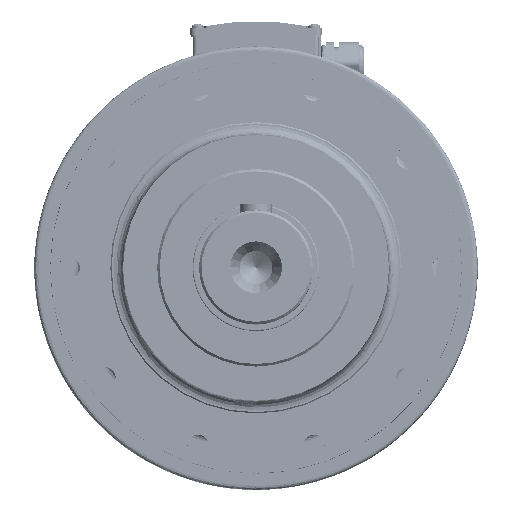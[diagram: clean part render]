
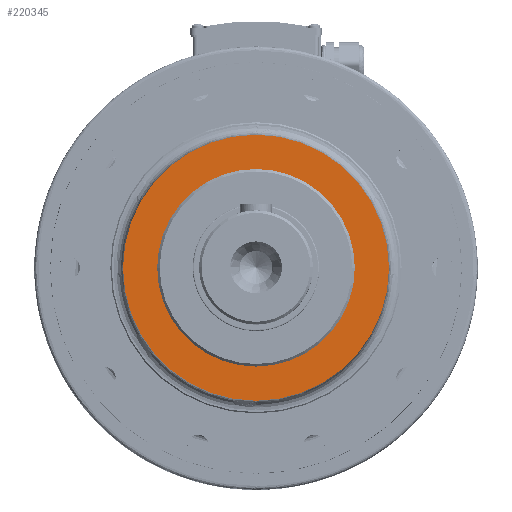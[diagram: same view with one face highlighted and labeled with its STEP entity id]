
A CAD part, top view. The second image highlights one B-rep face of the part: STEP entity #220345.
In plain terms, the highlighted planar face has unit normal (0, 0, 1).
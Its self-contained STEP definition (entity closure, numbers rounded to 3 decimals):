
#8266 = ORIENTED_EDGE ( 'NONE', *, *, #34236, .T. ) ;
#8309 = ORIENTED_EDGE ( 'NONE', *, *, #34641, .F. ) ;
#8321 = ORIENTED_EDGE ( 'NONE', *, *, #34301, .T. ) ;
#8467 = ORIENTED_EDGE ( 'NONE', *, *, #34117, .F. ) ;
#12624 = CIRCLE ( 'NONE', #115828, 105. ) ;
#15694 = DIRECTION ( 'NONE',  ( 0., 0., -1. ) ) ;
#15706 = CARTESIAN_POINT ( 'NONE',  ( 0., 0., 181. ) ) ;
#15727 = DIRECTION ( 'NONE',  ( 0., 1., 0. ) ) ;
#17786 = DIRECTION ( 'NONE',  ( 0., 1., 0. ) ) ;
#17906 = CARTESIAN_POINT ( 'NONE',  ( 0., 0., 181. ) ) ;
#17943 = DIRECTION ( 'NONE',  ( 0., 0., -1. ) ) ;
#18846 = DIRECTION ( 'NONE',  ( 0., 0., -1. ) ) ;
#18866 = DIRECTION ( 'NONE',  ( 0., 1., 0. ) ) ;
#18963 = CARTESIAN_POINT ( 'NONE',  ( 0., 0., 181. ) ) ;
#19618 = DIRECTION ( 'NONE',  ( 0., 1., 0. ) ) ;
#19738 = DIRECTION ( 'NONE',  ( 0., 0., -1. ) ) ;
#19796 = CARTESIAN_POINT ( 'NONE',  ( 0., 0., 181. ) ) ;
#34117 = EDGE_CURVE ( 'NONE', #78993, #78708, #54077, .T. ) ;
#34236 = EDGE_CURVE ( 'NONE', #78887, #78985, #54342, .T. ) ;
#34301 = EDGE_CURVE ( 'NONE', #78985, #78887, #54301, .T. ) ;
#34641 = EDGE_CURVE ( 'NONE', #78708, #78993, #12624, .T. ) ;
#54077 = CIRCLE ( 'NONE', #115954, 105. ) ;
#54301 = CIRCLE ( 'NONE', #115982, 78. ) ;
#54342 = CIRCLE ( 'NONE', #116107, 78. ) ;
#78246 = EDGE_LOOP ( 'NONE', ( #8467, #8309 ) ) ;
#78708 = VERTEX_POINT ( 'NONE', #142082 ) ;
#78887 = VERTEX_POINT ( 'NONE', #248522 ) ;
#78985 = VERTEX_POINT ( 'NONE', #248817 ) ;
#78993 = VERTEX_POINT ( 'NONE', #248930 ) ;
#89093 = FACE_BOUND ( 'NONE', #224865, .T. ) ;
#89139 = FACE_OUTER_BOUND ( 'NONE', #78246, .T. ) ;
#90576 = DIRECTION ( 'NONE',  ( 0., 0., 1. ) ) ;
#90582 = DIRECTION ( 'NONE',  ( 0., -1., 0. ) ) ;
#90594 = PLANE ( 'NONE',  #251523 ) ;
#90630 = CARTESIAN_POINT ( 'NONE',  ( 0., 105., 181. ) ) ;
#115828 = AXIS2_PLACEMENT_3D ( 'NONE', #17906, #17943, #17786 ) ;
#115954 = AXIS2_PLACEMENT_3D ( 'NONE', #18963, #18846, #18866 ) ;
#115982 = AXIS2_PLACEMENT_3D ( 'NONE', #15706, #15694, #15727 ) ;
#116107 = AXIS2_PLACEMENT_3D ( 'NONE', #19796, #19738, #19618 ) ;
#142082 = CARTESIAN_POINT ( 'NONE',  ( 0., -105., 181. ) ) ;
#220345 = ADVANCED_FACE ( 'NONE', ( #89139, #89093 ), #90594, .T. ) ;
#224865 = EDGE_LOOP ( 'NONE', ( #8266, #8321 ) ) ;
#248522 = CARTESIAN_POINT ( 'NONE',  ( 0., 78., 181. ) ) ;
#248817 = CARTESIAN_POINT ( 'NONE',  ( 0., -78., 181. ) ) ;
#248930 = CARTESIAN_POINT ( 'NONE',  ( 0., 105., 181. ) ) ;
#251523 = AXIS2_PLACEMENT_3D ( 'NONE', #90630, #90576, #90582 ) ;
